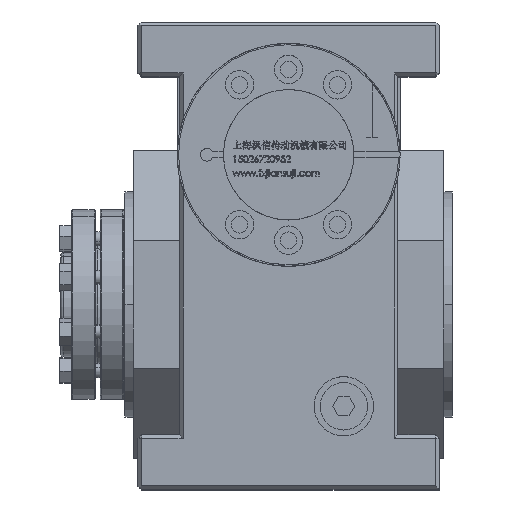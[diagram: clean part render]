
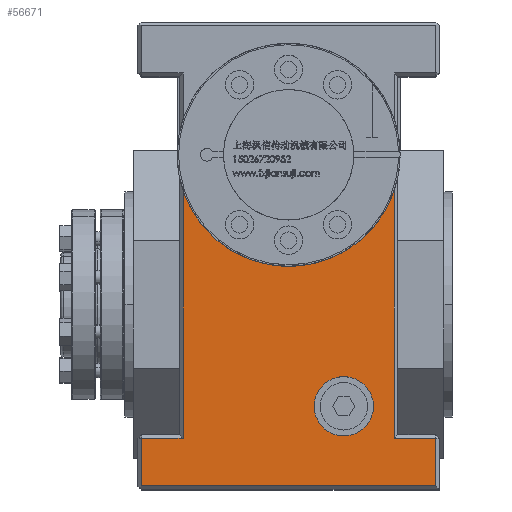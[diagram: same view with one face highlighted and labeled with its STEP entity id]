
A CAD part, top view. The second image highlights one B-rep face of the part: STEP entity #56671.
In plain terms, the highlighted planar face has unit normal (0, 0, 1).
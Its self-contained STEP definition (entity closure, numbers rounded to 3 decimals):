
#91 = AXIS2_PLACEMENT_3D ( 'NONE', #38204, #56525, #44859 ) ;
#670 = DIRECTION ( 'NONE',  ( 0., 0., -1. ) ) ;
#995 = VERTEX_POINT ( 'NONE', #62176 ) ;
#1874 = EDGE_CURVE ( 'NONE', #62110, #53358, #5214, .T. ) ;
#2140 = CARTESIAN_POINT ( 'NONE',  ( 62., -76.5, 83. ) ) ;
#2230 = VERTEX_POINT ( 'NONE', #58287 ) ;
#4756 = VERTEX_POINT ( 'NONE', #59332 ) ;
#5208 = ORIENTED_EDGE ( 'NONE', *, *, #47817, .T. ) ;
#5214 = LINE ( 'NONE', #43862, #59614 ) ;
#5397 = CIRCLE ( 'NONE', #91, 12.5 ) ;
#6925 = DIRECTION ( 'NONE',  ( 0., 1., 0. ) ) ;
#7949 = ORIENTED_EDGE ( 'NONE', *, *, #35323, .T. ) ;
#8509 = VERTEX_POINT ( 'NONE', #2140 ) ;
#8743 = DIRECTION ( 'NONE',  ( 0., 1., 0. ) ) ;
#10479 = DIRECTION ( 'NONE',  ( -1., 0., 0. ) ) ;
#10641 = EDGE_CURVE ( 'NONE', #53358, #46578, #78426, .T. ) ;
#12052 = CARTESIAN_POINT ( 'NONE',  ( 63.5, -76.5, 83. ) ) ;
#12282 = VECTOR ( 'NONE', #8743, 1000. ) ;
#12809 = CARTESIAN_POINT ( 'NONE',  ( 23.262, -43., 83. ) ) ;
#13193 = DIRECTION ( 'NONE',  ( 0., 1., 0. ) ) ;
#15142 = EDGE_CURVE ( 'NONE', #8509, #59956, #60171, .T. ) ;
#15719 = DIRECTION ( 'NONE',  ( 0., -1., 0. ) ) ;
#16558 = CARTESIAN_POINT ( 'NONE',  ( 62., -56.5, 83. ) ) ;
#18286 = DIRECTION ( 'NONE',  ( 1., 0., 0. ) ) ;
#19027 = DIRECTION ( 'NONE',  ( 0., 0., 1. ) ) ;
#20397 = LINE ( 'NONE', #46599, #12282 ) ;
#20595 = DIRECTION ( 'NONE',  ( 0., -1., 0. ) ) ;
#22681 = EDGE_CURVE ( 'NONE', #53297, #995, #5397, .T. ) ;
#23063 = AXIS2_PLACEMENT_3D ( 'NONE', #12809, #31909, #57309 ) ;
#24865 = ORIENTED_EDGE ( 'NONE', *, *, #56002, .T. ) ;
#26866 = VERTEX_POINT ( 'NONE', #62823 ) ;
#28162 = ORIENTED_EDGE ( 'NONE', *, *, #36752, .F. ) ;
#29135 = VECTOR ( 'NONE', #10479, 1000. ) ;
#29519 = ORIENTED_EDGE ( 'NONE', *, *, #22681, .F. ) ;
#29696 = DIRECTION ( 'NONE',  ( -1., 0., 0. ) ) ;
#30823 = CARTESIAN_POINT ( 'NONE',  ( 63.5, -56.5, 83. ) ) ;
#31042 = CARTESIAN_POINT ( 'NONE',  ( 63.5, 119., 83. ) ) ;
#31578 = LINE ( 'NONE', #12052, #62395 ) ;
#31909 = DIRECTION ( 'NONE',  ( 0., 0., 1. ) ) ;
#33629 = AXIS2_PLACEMENT_3D ( 'NONE', #31042, #670, #6925 ) ;
#35323 = EDGE_CURVE ( 'NONE', #4756, #2230, #20397, .T. ) ;
#36752 = EDGE_CURVE ( 'NONE', #995, #53297, #56276, .T. ) ;
#37280 = ORIENTED_EDGE ( 'NONE', *, *, #15142, .T. ) ;
#37700 = PLANE ( 'NONE',  #33629 ) ;
#38204 = CARTESIAN_POINT ( 'NONE',  ( 23.262, -43., 83. ) ) ;
#43862 = CARTESIAN_POINT ( 'NONE',  ( -44.5, -55., 83. ) ) ;
#44857 = ORIENTED_EDGE ( 'NONE', *, *, #75579, .F. ) ;
#44859 = DIRECTION ( 'NONE',  ( 1., 0., 0. ) ) ;
#46379 = LINE ( 'NONE', #46797, #49662 ) ;
#46578 = VERTEX_POINT ( 'NONE', #72253 ) ;
#46599 = CARTESIAN_POINT ( 'NONE',  ( 44.5, 53.356, 83. ) ) ;
#46797 = CARTESIAN_POINT ( 'NONE',  ( -62., 119., 83. ) ) ;
#47817 = EDGE_CURVE ( 'NONE', #46578, #26866, #46379, .T. ) ;
#48192 = CARTESIAN_POINT ( 'NONE',  ( 35.762, -43., 83. ) ) ;
#49252 = CIRCLE ( 'NONE', #62559, 47. ) ;
#49662 = VECTOR ( 'NONE', #20595, 1000. ) ;
#51319 = EDGE_LOOP ( 'NONE', ( #61997, #37280, #24865, #7949, #44857, #65032, #58134, #5208 ) ) ;
#51340 = EDGE_LOOP ( 'NONE', ( #29519, #28162 ) ) ;
#52735 = VECTOR ( 'NONE', #29696, 1000. ) ;
#53297 = VERTEX_POINT ( 'NONE', #48192 ) ;
#53358 = VERTEX_POINT ( 'NONE', #65270 ) ;
#56002 = EDGE_CURVE ( 'NONE', #59956, #4756, #67479, .T. ) ;
#56276 = CIRCLE ( 'NONE', #23063, 12.5 ) ;
#56525 = DIRECTION ( 'NONE',  ( 0., 0., 1. ) ) ;
#56671 = ADVANCED_FACE ( 'NONE', ( #75987, #69325 ), #37700, .F. ) ;
#57309 = DIRECTION ( 'NONE',  ( 1., 0., 0. ) ) ;
#58134 = ORIENTED_EDGE ( 'NONE', *, *, #10641, .T. ) ;
#58287 = CARTESIAN_POINT ( 'NONE',  ( 44.5, 47.876, 83. ) ) ;
#59332 = CARTESIAN_POINT ( 'NONE',  ( 44.5, -56.5, 83. ) ) ;
#59614 = VECTOR ( 'NONE', #15719, 1000. ) ;
#59956 = VERTEX_POINT ( 'NONE', #16558 ) ;
#60171 = LINE ( 'NONE', #79342, #68631 ) ;
#61997 = ORIENTED_EDGE ( 'NONE', *, *, #74199, .T. ) ;
#62110 = VERTEX_POINT ( 'NONE', #65744 ) ;
#62176 = CARTESIAN_POINT ( 'NONE',  ( 10.762, -43., 83. ) ) ;
#62395 = VECTOR ( 'NONE', #18286, 1000. ) ;
#62559 = AXIS2_PLACEMENT_3D ( 'NONE', #75623, #19027, #13193 ) ;
#62823 = CARTESIAN_POINT ( 'NONE',  ( -62., -76.5, 83. ) ) ;
#65032 = ORIENTED_EDGE ( 'NONE', *, *, #1874, .T. ) ;
#65270 = CARTESIAN_POINT ( 'NONE',  ( -44.5, -56.5, 83. ) ) ;
#65744 = CARTESIAN_POINT ( 'NONE',  ( -44.5, 47.876, 83. ) ) ;
#67479 = LINE ( 'NONE', #30823, #29135 ) ;
#68631 = VECTOR ( 'NONE', #73072, 1000. ) ;
#69325 = FACE_BOUND ( 'NONE', #51340, .T. ) ;
#72253 = CARTESIAN_POINT ( 'NONE',  ( -62., -56.5, 83. ) ) ;
#73072 = DIRECTION ( 'NONE',  ( 0., 1., 0. ) ) ;
#74199 = EDGE_CURVE ( 'NONE', #26866, #8509, #31578, .T. ) ;
#74230 = CARTESIAN_POINT ( 'NONE',  ( -63.5, -56.5, 83. ) ) ;
#75579 = EDGE_CURVE ( 'NONE', #62110, #2230, #49252, .T. ) ;
#75623 = CARTESIAN_POINT ( 'NONE',  ( 0., 63., 83. ) ) ;
#75987 = FACE_OUTER_BOUND ( 'NONE', #51319, .T. ) ;
#78426 = LINE ( 'NONE', #74230, #52735 ) ;
#79342 = CARTESIAN_POINT ( 'NONE',  ( 62., -55., 83. ) ) ;
